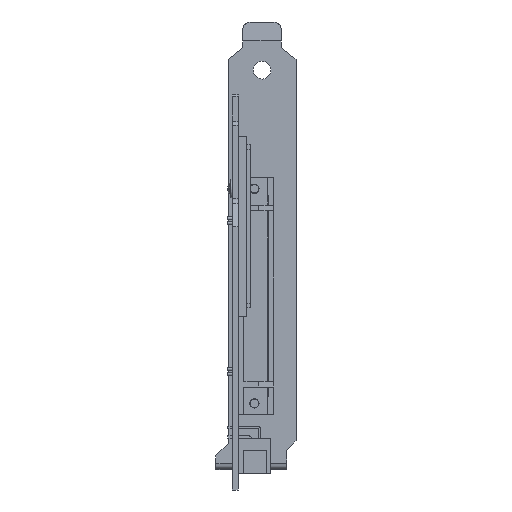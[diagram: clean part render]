
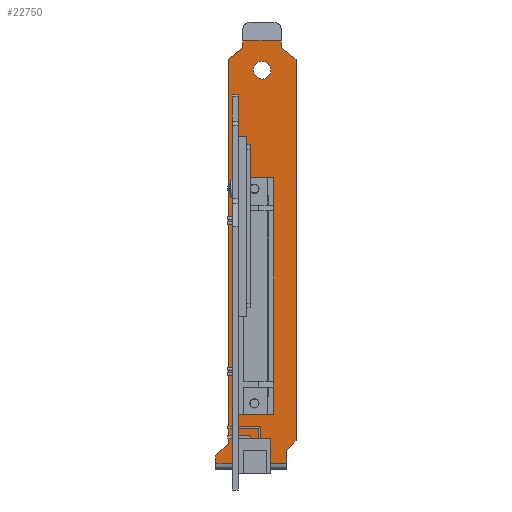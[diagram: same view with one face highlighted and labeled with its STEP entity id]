
A CAD part, front view. The second image highlights one B-rep face of the part: STEP entity #22750.
In plain terms, the highlighted planar face has unit normal (0, -1, 0).
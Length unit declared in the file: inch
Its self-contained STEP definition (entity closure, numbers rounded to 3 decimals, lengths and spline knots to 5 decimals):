
#6661=DIRECTION('',(1.,0.,0.));
#6662=VECTOR('',#6661,0.40551);
#6663=CARTESIAN_POINT('',(0.0305,0.33,-0.687));
#6664=LINE('',#6663,#6662);
#6689=DIRECTION('',(1.,0.,0.));
#6690=VECTOR('',#6689,0.412);
#6691=CARTESIAN_POINT('',(0.108,0.33,0.764));
#6692=LINE('',#6691,#6690);
#6693=DIRECTION('',(0.,0.,-1.));
#6694=VECTOR('',#6693,0.074);
#6695=CARTESIAN_POINT('',(0.52,0.33,0.764));
#6696=LINE('',#6695,#6694);
#6697=DIRECTION('',(-0.788,0.,0.616));
#6698=VECTOR('',#6697,0.1967);
#6699=CARTESIAN_POINT('',(0.675,0.33,0.5689));
#6700=LINE('',#6699,#6698);
#6701=DIRECTION('',(0.707,0.,0.707));
#6702=VECTOR('',#6701,0.14142);
#6703=CARTESIAN_POINT('',(0.575,0.33,-3.583));
#6704=LINE('',#6703,#6702);
#6705=DIRECTION('',(0.,0.,1.));
#6706=VECTOR('',#6705,0.137);
#6707=CARTESIAN_POINT('',(0.575,0.33,-3.72));
#6708=LINE('',#6707,#6706);
#6709=DIRECTION('',(-1.,0.,0.));
#6710=VECTOR('',#6709,0.75);
#6711=CARTESIAN_POINT('',(0.575,0.33,-3.72));
#6712=LINE('',#6711,#6710);
#6713=DIRECTION('',(-0.707,0.,-0.707));
#6714=VECTOR('',#6713,0.18102);
#6715=CARTESIAN_POINT('',(-0.047,0.33,-3.514));
#6716=LINE('',#6715,#6714);
#6717=DIRECTION('',(0.,0.,-1.));
#6718=VECTOR('',#6717,4.0829);
#6719=CARTESIAN_POINT('',(-0.047,0.33,0.5689));
#6720=LINE('',#6719,#6718);
#6721=DIRECTION('',(-0.788,0.,-0.616));
#6722=VECTOR('',#6721,0.1967);
#6723=CARTESIAN_POINT('',(0.108,0.33,0.69));
#6724=LINE('',#6723,#6722);
#6725=DIRECTION('',(0.,0.,-1.));
#6726=VECTOR('',#6725,0.074);
#6727=CARTESIAN_POINT('',(0.108,0.33,0.764));
#6728=LINE('',#6727,#6726);
#6729=CARTESIAN_POINT('',(0.314,0.33,0.453));
#6730=DIRECTION('',(0.,1.,0.));
#6731=DIRECTION('',(0.,0.,1.));
#6732=AXIS2_PLACEMENT_3D('',#6729,#6730,#6731);
#6734=CARTESIAN_POINT('',(0.314,0.33,0.453));
#6735=DIRECTION('',(0.,1.,0.));
#6736=DIRECTION('',(0.,0.,-1.));
#6737=AXIS2_PLACEMENT_3D('',#6734,#6735,#6736);
#6785=DIRECTION('',(0.,0.,1.));
#6786=VECTOR('',#6785,0.078);
#6787=CARTESIAN_POINT('',(-0.175,0.33,-3.72));
#6788=LINE('',#6787,#6786);
#7139=DIRECTION('',(0.,0.,1.));
#7140=VECTOR('',#7139,4.0519);
#7141=CARTESIAN_POINT('',(0.675,0.33,-3.483));
#7142=LINE('',#7141,#7140);
#8017=DIRECTION('',(-1.,0.,0.));
#8018=VECTOR('',#8017,0.40551);
#8019=CARTESIAN_POINT('',(0.43602,0.33,-3.203));
#8020=LINE('',#8019,#8018);
#8053=DIRECTION('',(0.,0.,1.));
#8054=VECTOR('',#8053,2.516);
#8055=CARTESIAN_POINT('',(0.0305,0.33,-3.203));
#8056=LINE('',#8055,#8054);
#8169=DIRECTION('',(0.,0.,1.));
#8170=VECTOR('',#8169,2.516);
#8171=CARTESIAN_POINT('',(0.43602,0.33,-3.203));
#8172=LINE('',#8171,#8170);
#13320=CARTESIAN_POINT('',(-0.175,0.33,-3.72));
#13322=VERTEX_POINT('',#13320);
#13323=CARTESIAN_POINT('',(0.575,0.33,-3.72));
#13325=VERTEX_POINT('',#13323);
#13327=CARTESIAN_POINT('',(0.575,0.33,-3.583));
#13328=VERTEX_POINT('',#13327);
#13329=CARTESIAN_POINT('',(0.675,0.33,-3.483));
#13330=VERTEX_POINT('',#13329);
#13331=CARTESIAN_POINT('',(0.108,0.33,0.69));
#13332=CARTESIAN_POINT('',(-0.047,0.33,0.5689));
#13333=VERTEX_POINT('',#13331);
#13334=VERTEX_POINT('',#13332);
#13335=CARTESIAN_POINT('',(-0.047,0.33,-3.514));
#13336=VERTEX_POINT('',#13335);
#13337=CARTESIAN_POINT('',(-0.175,0.33,-3.642));
#13338=VERTEX_POINT('',#13337);
#13339=CARTESIAN_POINT('',(0.675,0.33,0.5689));
#13340=CARTESIAN_POINT('',(0.52,0.33,0.69));
#13341=VERTEX_POINT('',#13339);
#13342=VERTEX_POINT('',#13340);
#13451=CARTESIAN_POINT('',(0.314,0.33,0.5465));
#13452=CARTESIAN_POINT('',(0.314,0.33,0.3595));
#13453=VERTEX_POINT('',#13451);
#13454=VERTEX_POINT('',#13452);
#13455=CARTESIAN_POINT('',(0.108,0.33,0.764));
#13456=VERTEX_POINT('',#13455);
#13457=CARTESIAN_POINT('',(0.52,0.33,0.764));
#13458=VERTEX_POINT('',#13457);
#13503=CARTESIAN_POINT('',(0.0305,0.33,-0.687));
#13504=CARTESIAN_POINT('',(0.43602,0.33,-0.687));
#13505=VERTEX_POINT('',#13503);
#13506=VERTEX_POINT('',#13504);
#13507=CARTESIAN_POINT('',(0.43602,0.33,-3.203));
#13508=CARTESIAN_POINT('',(0.0305,0.33,-3.203));
#13509=VERTEX_POINT('',#13507);
#13510=VERTEX_POINT('',#13508);
#22704=CARTESIAN_POINT('',(0.675,0.33,-3.72));
#22705=DIRECTION('',(0.,1.,0.));
#22706=DIRECTION('',(0.,0.,1.));
#22707=AXIS2_PLACEMENT_3D('',#22704,#22705,#22706);
#22708=PLANE('',#22707);
#22710=ORIENTED_EDGE('',*,*,#22709,.T.);
#22712=ORIENTED_EDGE('',*,*,#22711,.T.);
#22714=ORIENTED_EDGE('',*,*,#22713,.F.);
#22716=ORIENTED_EDGE('',*,*,#22715,.F.);
#22718=ORIENTED_EDGE('',*,*,#22717,.F.);
#22720=ORIENTED_EDGE('',*,*,#22719,.F.);
#22722=ORIENTED_EDGE('',*,*,#22721,.T.);
#22724=ORIENTED_EDGE('',*,*,#22723,.T.);
#22726=ORIENTED_EDGE('',*,*,#22725,.F.);
#22728=ORIENTED_EDGE('',*,*,#22727,.F.);
#22730=ORIENTED_EDGE('',*,*,#22729,.F.);
#22732=ORIENTED_EDGE('',*,*,#22731,.F.);
#22733=EDGE_LOOP('',(#22710,#22712,#22714,#22716,#22718,#22720,#22722,#22724,
#22726,#22728,#22730,#22732));
#22734=FACE_OUTER_BOUND('',#22733,.F.);
#22736=ORIENTED_EDGE('',*,*,#22735,.F.);
#22738=ORIENTED_EDGE('',*,*,#22737,.F.);
#22739=EDGE_LOOP('',(#22736,#22738));
#22740=FACE_BOUND('',#22739,.F.);
#22741=ORIENTED_EDGE('',*,*,#22680,.F.);
#22743=ORIENTED_EDGE('',*,*,#22742,.F.);
#22745=ORIENTED_EDGE('',*,*,#22744,.F.);
#22747=ORIENTED_EDGE('',*,*,#22746,.T.);
#22748=EDGE_LOOP('',(#22741,#22743,#22745,#22747));
#22749=FACE_BOUND('',#22748,.F.);
#22750=ADVANCED_FACE('',(#22734,#22740,#22749),#22708,.F.);
#6733=CIRCLE('',#6732,0.0935);
#6738=CIRCLE('',#6737,0.0935);
#22680=EDGE_CURVE('',#13505,#13506,#6664,.T.);
#22709=EDGE_CURVE('',#13456,#13458,#6692,.T.);
#22711=EDGE_CURVE('',#13458,#13342,#6696,.T.);
#22713=EDGE_CURVE('',#13341,#13342,#6700,.T.);
#22715=EDGE_CURVE('',#13330,#13341,#7142,.T.);
#22717=EDGE_CURVE('',#13328,#13330,#6704,.T.);
#22719=EDGE_CURVE('',#13325,#13328,#6708,.T.);
#22721=EDGE_CURVE('',#13325,#13322,#6712,.T.);
#22723=EDGE_CURVE('',#13322,#13338,#6788,.T.);
#22725=EDGE_CURVE('',#13336,#13338,#6716,.T.);
#22727=EDGE_CURVE('',#13334,#13336,#6720,.T.);
#22729=EDGE_CURVE('',#13333,#13334,#6724,.T.);
#22731=EDGE_CURVE('',#13456,#13333,#6728,.T.);
#22735=EDGE_CURVE('',#13453,#13454,#6733,.T.);
#22737=EDGE_CURVE('',#13454,#13453,#6738,.T.);
#22742=EDGE_CURVE('',#13510,#13505,#8056,.T.);
#22744=EDGE_CURVE('',#13509,#13510,#8020,.T.);
#22746=EDGE_CURVE('',#13509,#13506,#8172,.T.);
